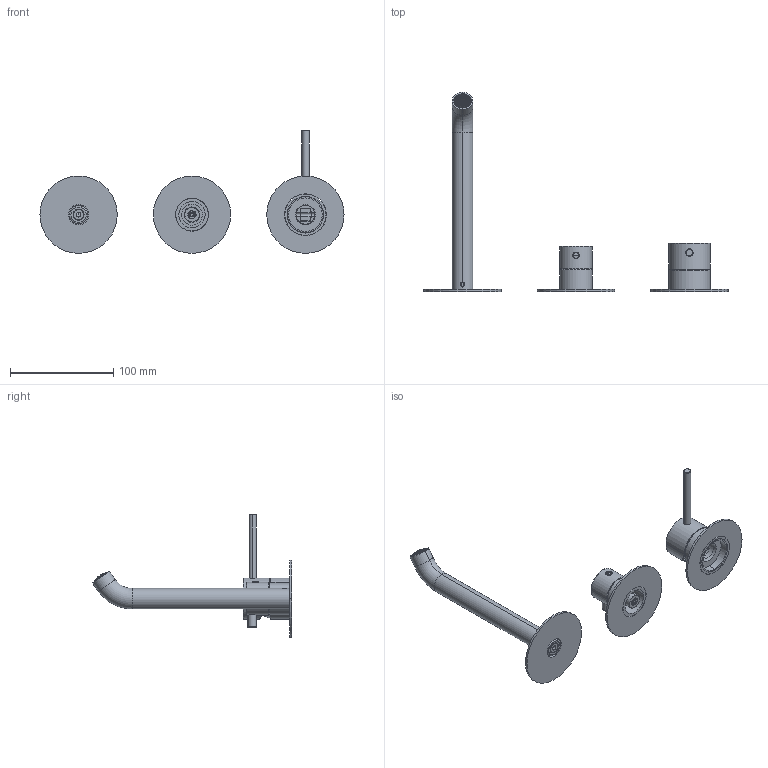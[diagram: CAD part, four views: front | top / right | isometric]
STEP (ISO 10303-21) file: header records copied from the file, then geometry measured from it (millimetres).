
FILE_DESCRIPTION((''),'2;1');
FILE_NAME('69558V221_SW0001','2025-02-12T16:13:46',('carloff'),(''),'CREO PARAMETRIC BY PTC INC, 2022014','CREO PARAMETRIC BY PTC INC, 2022014','');
FILE_SCHEMA(('CONFIG_CONTROL_DESIGN'));
Length unit declared in the file: millimetre
Products named in the file (1): 69558V221_SW0001
Bounding box: 295 x 193.13 x 119 mm (x, y, z)
Volume: 125073.3 mm3; surface area: 97964 mm2
Topology: 8 solids, 8 shells, 3403 faces, 9956 edges, 6614 vertices
Faces by surface type: plane 2058, cylinder 583, torus 451, bspline 170, cone 121, sphere 17, extrusion 3
Entity records: 172091 total; most frequent: CARTESIAN_POINT 87614, ORIENTED_EDGE 19880, DIRECTION 14444, EDGE_CURVE 9940, VERTEX_POINT 6614, AXIS2_PLACEMENT_3D 5252, B_SPLINE_CURVE_WITH_KNOTS 3984, VECTOR 3940
